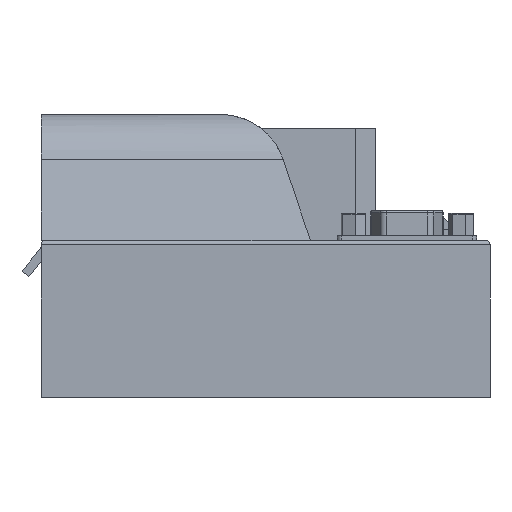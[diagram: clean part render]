
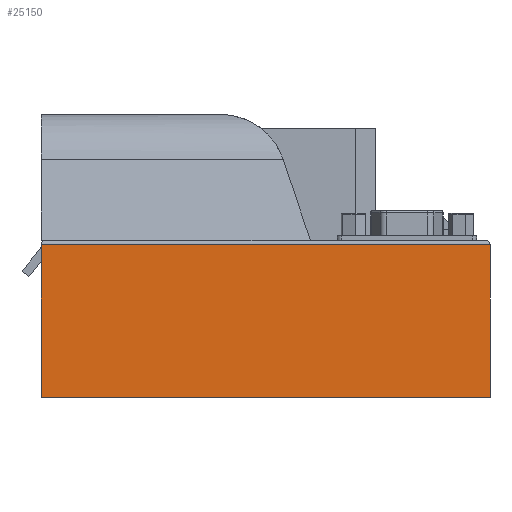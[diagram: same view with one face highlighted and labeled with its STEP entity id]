
A CAD part, front view. The second image highlights one B-rep face of the part: STEP entity #25150.
In plain terms, the highlighted planar face has unit normal (0, -1, 0).
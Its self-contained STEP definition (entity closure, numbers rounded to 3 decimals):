
#24977=VERTEX_POINT('',#24978);
#24978=CARTESIAN_POINT('',(0.0,-50.0,34.0));
#25042=EDGE_CURVE('',#24977,#25043,#25045,.T.);
#25043=VERTEX_POINT('',#25044);
#25044=CARTESIAN_POINT('',(100.0,-50.0,34.0));
#25045=LINE('',#25046,#25047);
#25046=CARTESIAN_POINT('',(0.0,-50.0,34.0));
#25047=VECTOR('',#25048,1.0);
#25048=DIRECTION('',(1.0,0.0,0.0));
#25108=VERTEX_POINT('',#25109);
#25109=CARTESIAN_POINT('',(0.0,-50.0,0.));
#25115=EDGE_CURVE('',#25108,#24977,#25116,.T.);
#25116=LINE('',#25117,#25118);
#25117=CARTESIAN_POINT('',(0.0,-50.0,0.));
#25118=VECTOR('',#25119,1.0);
#25119=DIRECTION('',(0.0,0.,1.0));
#25150=ADVANCED_FACE('',(#25151),#25169,.F.);
#25151=FACE_BOUND('',#25152,.T.);
#25152=EDGE_LOOP('',(#25153,#25154,#25155,#25163));
#25153=ORIENTED_EDGE('',*,*,#25042,.F.);
#25154=ORIENTED_EDGE('',*,*,#25115,.F.);
#25155=ORIENTED_EDGE('',*,*,#25156,.T.);
#25156=EDGE_CURVE('',#25108,#25157,#25159,.F.);
#25157=VERTEX_POINT('',#25158);
#25158=CARTESIAN_POINT('',(100.0,-50.0,0.));
#25159=LINE('',#25160,#25161);
#25160=CARTESIAN_POINT('',(100.0,-50.0,0.));
#25161=VECTOR('',#25162,1.0);
#25162=DIRECTION('',(-1.0,0.0,0.0));
#25163=ORIENTED_EDGE('',*,*,#25164,.T.);
#25164=EDGE_CURVE('',#25157,#25043,#25165,.F.);
#25165=LINE('',#25166,#25167);
#25166=CARTESIAN_POINT('',(100.0,-50.0,35.0));
#25167=VECTOR('',#25168,1.0);
#25168=DIRECTION('',(0.0,0.,-1.0));
#25169=PLANE('',#25170);
#25170=AXIS2_PLACEMENT_3D('',#25171,#25172,#25173);
#25171=CARTESIAN_POINT('',(50.0,-50.0,17.5));
#25172=DIRECTION('',(0.0,1.0,0.));
#25173=DIRECTION('',(0.0,0.,1.0));
